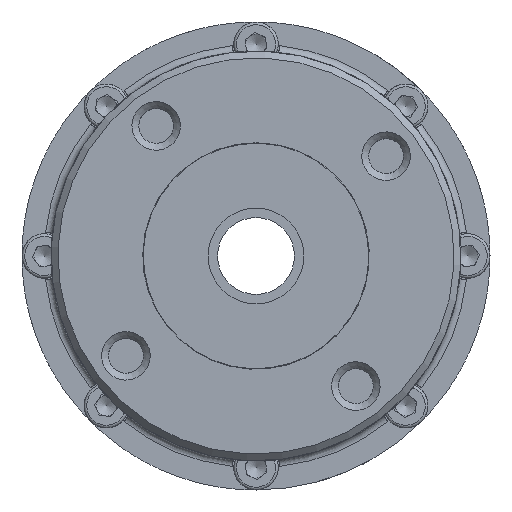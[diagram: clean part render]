
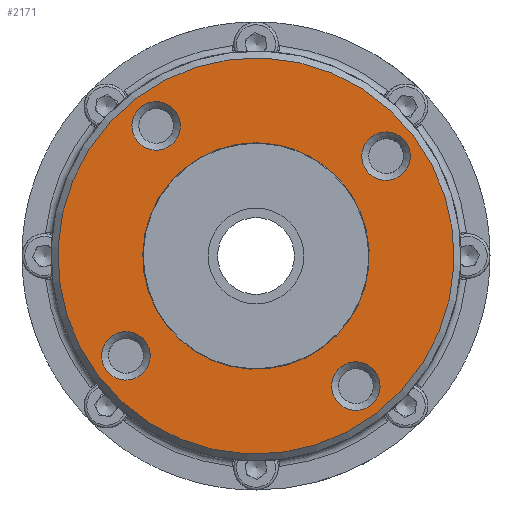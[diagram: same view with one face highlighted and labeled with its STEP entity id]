
A CAD part, left-side view. The second image highlights one B-rep face of the part: STEP entity #2171.
In plain terms, the highlighted planar face has unit normal (-1, 0, 0).
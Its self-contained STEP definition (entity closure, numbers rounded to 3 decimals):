
#2171 = ADVANCED_FACE( '', ( #4771, #4772, #4773, #4774, #4775, #4776 ), #4777, .T. );
#4771 = FACE_OUTER_BOUND( '', #7567, .T. );
#4772 = FACE_BOUND( '', #7568, .T. );
#4773 = FACE_BOUND( '', #7569, .T. );
#4774 = FACE_BOUND( '', #7570, .T. );
#4775 = FACE_BOUND( '', #7571, .T. );
#4776 = FACE_BOUND( '', #7572, .T. );
#4777 = PLANE( '', #7573 );
#7567 = EDGE_LOOP( '', ( #13640 ) );
#7568 = EDGE_LOOP( '', ( #13641 ) );
#7569 = EDGE_LOOP( '', ( #13642 ) );
#7570 = EDGE_LOOP( '', ( #13643 ) );
#7571 = EDGE_LOOP( '', ( #13644 ) );
#7572 = EDGE_LOOP( '', ( #13645 ) );
#7573 = AXIS2_PLACEMENT_3D( '', #13646, #13647, #13648 );
#13640 = ORIENTED_EDGE( '', *, *, #15841, .T. );
#13641 = ORIENTED_EDGE( '', *, *, #15989, .F. );
#13642 = ORIENTED_EDGE( '', *, *, #17031, .T. );
#13643 = ORIENTED_EDGE( '', *, *, #17006, .T. );
#13644 = ORIENTED_EDGE( '', *, *, #15806, .T. );
#13645 = ORIENTED_EDGE( '', *, *, #16196, .T. );
#13646 = CARTESIAN_POINT( '', ( -115., 20.15, 26.26 ) );
#13647 = DIRECTION( '', ( -1., 0., 0. ) );
#13648 = DIRECTION( '', ( 0., 0., 1. ) );
#15806 = EDGE_CURVE( '', #19108, #19108, #19109, .T. );
#15841 = EDGE_CURVE( '', #19163, #19163, #19164, .T. );
#15989 = EDGE_CURVE( '', #19387, #19387, #19388, .T. );
#16196 = EDGE_CURVE( '', #19685, #19685, #19686, .T. );
#17006 = EDGE_CURVE( '', #20748, #20748, #20749, .T. );
#17031 = EDGE_CURVE( '', #20776, #20776, #20777, .T. );
#19108 = VERTEX_POINT( '', #24805 );
#19109 = CIRCLE( '', #24806, 7.1 );
#19163 = VERTEX_POINT( '', #24901 );
#19164 = CIRCLE( '', #24902, 58. );
#19387 = VERTEX_POINT( '', #25468 );
#19388 = CIRCLE( '', #25469, 33.15 );
#19685 = VERTEX_POINT( '', #26012 );
#19686 = CIRCLE( '', #26013, 7.1 );
#20748 = VERTEX_POINT( '', #28236 );
#20749 = CIRCLE( '', #28237, 7.1 );
#20776 = VERTEX_POINT( '', #28270 );
#20777 = CIRCLE( '', #28271, 7.1 );
#24805 = CARTESIAN_POINT( '', ( -115., -33.759, 34.853 ) );
#24806 = AXIS2_PLACEMENT_3D( '', #30241, #30242, #30243 );
#24901 = CARTESIAN_POINT( '', ( -115., 35.308, 46.014 ) );
#24902 = AXIS2_PLACEMENT_3D( '', #30304, #30305, #30306 );
#25468 = CARTESIAN_POINT( '', ( -115., 0., 33.15 ) );
#25469 = AXIS2_PLACEMENT_3D( '', #30454, #30455, #30456 );
#26012 = CARTESIAN_POINT( '', ( -115., 33.543, 43.714 ) );
#26013 = AXIS2_PLACEMENT_3D( '', #30718, #30719, #30720 );
#28236 = CARTESIAN_POINT( '', ( -115., -24.898, -32.448 ) );
#28237 = AXIS2_PLACEMENT_3D( '', #31585, #31586, #31587 );
#28270 = CARTESIAN_POINT( '', ( -115., 42.403, -23.588 ) );
#28271 = AXIS2_PLACEMENT_3D( '', #31606, #31607, #31608 );
#30241 = CARTESIAN_POINT( '', ( -115., -38.081, 29.221 ) );
#30242 = DIRECTION( '', ( 1., 0., 0. ) );
#30243 = DIRECTION( '', ( 0., 0.609, 0.793 ) );
#30304 = CARTESIAN_POINT( '', ( -115., 0., 0. ) );
#30305 = DIRECTION( '', ( -1., 0., 0. ) );
#30306 = DIRECTION( '', ( 0., 0.609, 0.793 ) );
#30454 = CARTESIAN_POINT( '', ( -115., 0., 0. ) );
#30455 = DIRECTION( '', ( -1., 0., 0. ) );
#30456 = DIRECTION( '', ( 0., 0., 1. ) );
#30718 = CARTESIAN_POINT( '', ( -115., 29.221, 38.081 ) );
#30719 = DIRECTION( '', ( 1., 0., 0. ) );
#30720 = DIRECTION( '', ( 0., 0.609, 0.793 ) );
#31585 = CARTESIAN_POINT( '', ( -115., -29.221, -38.081 ) );
#31586 = DIRECTION( '', ( 1., 0., 0. ) );
#31587 = DIRECTION( '', ( 0., 0.609, 0.793 ) );
#31606 = CARTESIAN_POINT( '', ( -115., 38.081, -29.221 ) );
#31607 = DIRECTION( '', ( 1., 0., 0. ) );
#31608 = DIRECTION( '', ( 0., 0.609, 0.793 ) );
